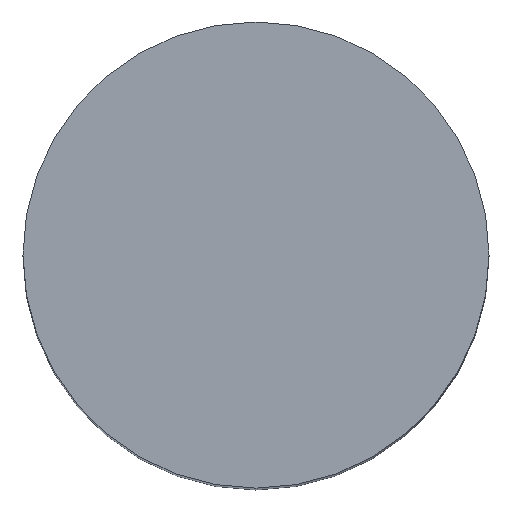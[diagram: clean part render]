
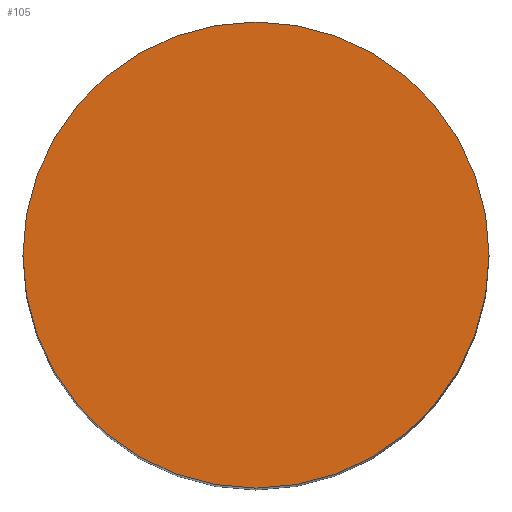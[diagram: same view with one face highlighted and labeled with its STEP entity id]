
A CAD part, top view. The second image highlights one B-rep face of the part: STEP entity #105.
In plain terms, the highlighted planar face has unit normal (0, 0, 1).
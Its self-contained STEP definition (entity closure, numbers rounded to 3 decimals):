
#21=EDGE_CURVE('',#22,#22,#24,.T.);
#22=VERTEX_POINT('',#23);
#23=CARTESIAN_POINT('',(45.,0.,9.));
#24=SURFACE_CURVE('',#25,(#30,#42),.PCURVE_S1.);
#25=CIRCLE('',#26,3.);
#26=AXIS2_PLACEMENT_3D('',#27,#28,#29);
#27=CARTESIAN_POINT('',(42.,0.,9.));
#28=DIRECTION('',(0.,0.,1.));
#29=DIRECTION('',(1.,0.,0.));
#30=PCURVE('',#31,#36);
#31=CYLINDRICAL_SURFACE('',#32,3.);
#32=AXIS2_PLACEMENT_3D('',#33,#34,#35);
#33=CARTESIAN_POINT('',(42.,0.,-5.));
#34=DIRECTION('',(0.,0.,1.));
#35=DIRECTION('',(1.,0.,0.));
#36=DEFINITIONAL_REPRESENTATION('',(#37),#41);
#37=LINE('',#38,#39);
#38=CARTESIAN_POINT('',(0.,14.));
#39=VECTOR('',#40,1.);
#40=DIRECTION('',(1.,0.));
#41=(GEOMETRIC_REPRESENTATION_CONTEXT(2) PARAMETRIC_REPRESENTATION_CONTEXT() REPRESENTATION_CONTEXT('2D SPACE',''));
#42=PCURVE('',#43,#48);
#43=PLANE('',#44);
#44=AXIS2_PLACEMENT_3D('',#45,#46,#47);
#45=CARTESIAN_POINT('',(42.,0.,9.));
#46=DIRECTION('',(0.,0.,1.));
#47=DIRECTION('',(1.,0.,0.));
#48=DEFINITIONAL_REPRESENTATION('',(#49),#53);
#49=CIRCLE('',#50,3.);
#50=AXIS2_PLACEMENT_2D('',#51,#52);
#51=CARTESIAN_POINT('',(0.,0.));
#52=DIRECTION('',(1.,0.));
#53=(GEOMETRIC_REPRESENTATION_CONTEXT(2) PARAMETRIC_REPRESENTATION_CONTEXT() REPRESENTATION_CONTEXT('2D SPACE',''));
#105=ADVANCED_FACE('',(#106),#43,.T.);
#106=FACE_BOUND('',#107,.T.);
#107=EDGE_LOOP('',(#108));
#108=ORIENTED_EDGE('',*,*,#21,.T.);
